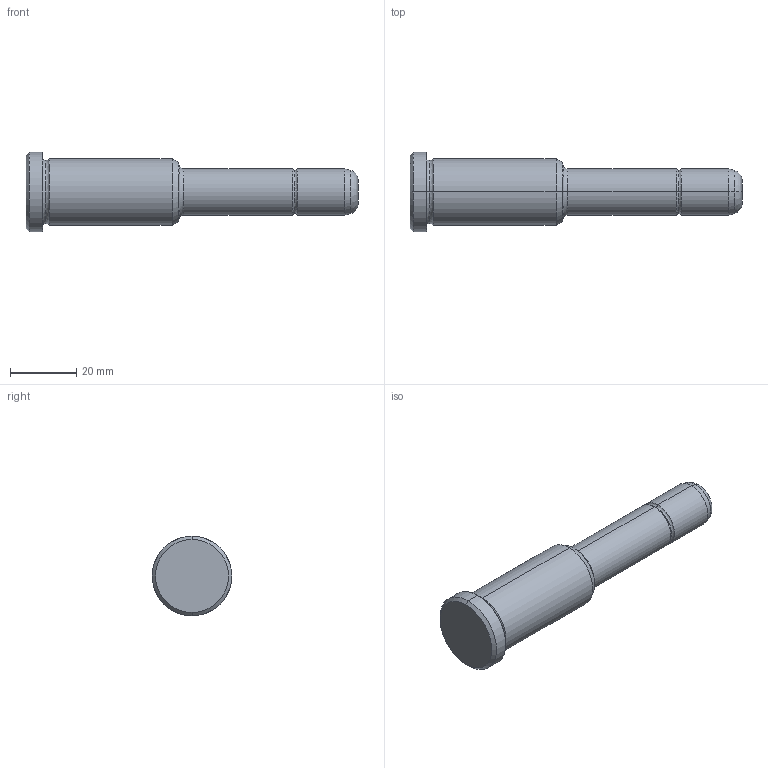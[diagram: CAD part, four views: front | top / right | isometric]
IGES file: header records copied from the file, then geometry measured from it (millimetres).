
Start section: START RECORD GO HERE.
Global section: file name: 351-14X46X100.igs; native system: DASSAULT SYSTEMES CATIA V5 R20 - www.3ds.com; preprocessor: CATIA Version 5 Release 20 ; author: Utente; organization: NB04-ASUS; date: 20210818.124039; units: millimetre
Bounding box: 100 x 24 x 24 mm (x, y, z)
Surface area: 6054.4 mm2 (no closed solid volume)
Topology: 0 solids, 0 shells, 30 faces, 172 edges, 172 vertices
Faces by surface type: revolution 26, plane 4
